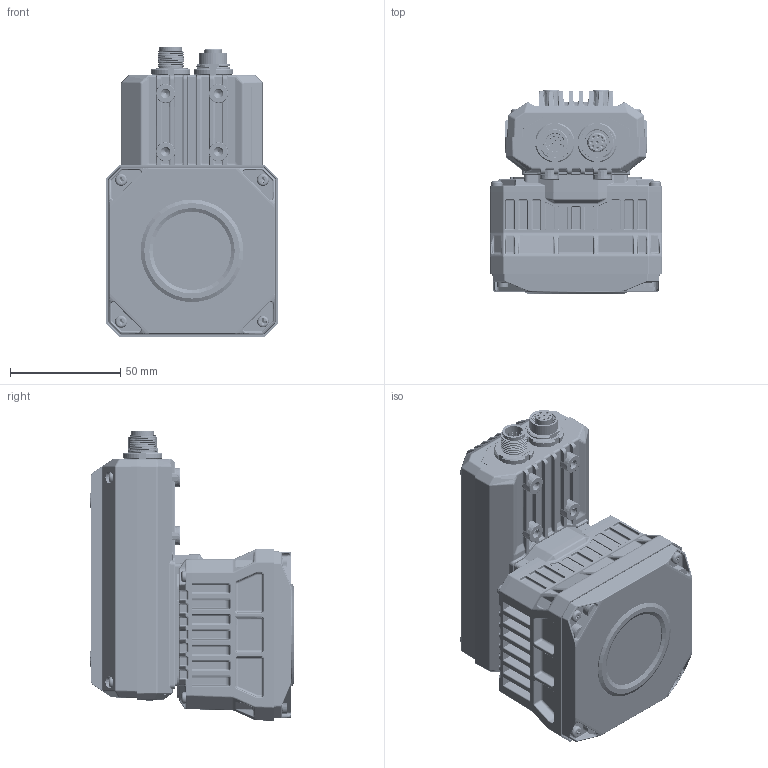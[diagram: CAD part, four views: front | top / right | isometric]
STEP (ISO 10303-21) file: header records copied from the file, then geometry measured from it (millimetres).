
FILE_DESCRIPTION((''),'2;1');
FILE_NAME('00-349-ALL-ASM_ASM_ASM','2021-02-23T12:04:05',('liudeting'),(''),'CREO PARAMETRIC BY PTC INC, 2017260','CREO PARAMETRIC BY PTC INC, 2017260','');
FILE_SCHEMA(('CONFIG_CONTROL_DESIGN'));
Products named in the file (59): DE-13-000293_13; DE-13-000364_ASM_24_ASM; DE-13-000122_6; DE-13-000123_ASM_17_ASM; DE-13-000221_ASM_5_ASM; BACK-PCB_5; L102-M12-Z08A11F_5; L102-M12-Z12A23C_8_1; L102-M12-Z12A23C_8_2; L102-M12-Z12A23C_8_3; L102-M12-Z12A23C_8_4; L102-M12-Z12A23C_8_5; L102-M12-Z12A23C_8_6; L102-M12-Z12A23C_8_7; L102-M12-Z12A23C_8_8; L102-M12-Z12A23C_8_9; L102-M12-Z12A23C_8_10; L102-M12-Z12A23C_8_11; L102-M12-Z12A23C_8_12; L102-M12-Z12A23C_8_13; L102-M12-Z12A23C_8_14; L102-M12-Z12A23C_8_15; L102-M12-Z12A23C_8_16; L102-M12-Z12A23C_8_17; L102-M12-Z12A23C_8_18; L102-M12-Z12A23C_8_19; L102-M12-Z12A23C_8_20; L102-M12-Z12A23C_8_21; L102-M12-Z12A23C_8_22; L102-M12-Z12A23C_8_23; L102-M12-Z12A23C_8_24; L102-M12-Z12A23C_8_25; L102-M12-Z12A23C_8_26; L102-M12-Z12A23C_8_ASM; RUANBAN_12; YUANLUOMU_3; SC-T1M2X4NL_2; 349-PCB_FPC_AF0_ASM_116_ASM; DE-13-000130_351; DE-13-000163_ASM_72_ASM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
Assembly tree (86 placements, depth 6):
  00-349-ALL-ASM_ASM_ASM
    00-349-ALL-ASM_ASM_1207_ASM
      DE-13-000364_ASM_24_ASM
        DE-13-000293_13
      DE-13-000221_ASM_5_ASM
        DE-13-000122_6
        DE-13-000123_ASM_17_ASM
          DE-13-000122_6
      349-PCB_FPC_AF0_ASM_116_ASM
        BACK-PCB_5
        L102-M12-Z08A11F_5
        L102-M12-Z12A23C_8_ASM
          L102-M12-Z12A23C_8_1
          L102-M12-Z12A23C_8_2
          L102-M12-Z12A23C_8_3
          L102-M12-Z12A23C_8_4
          L102-M12-Z12A23C_8_5
          L102-M12-Z12A23C_8_6
          L102-M12-Z12A23C_8_7
          L102-M12-Z12A23C_8_8
          L102-M12-Z12A23C_8_9
          L102-M12-Z12A23C_8_10
          L102-M12-Z12A23C_8_11
          L102-M12-Z12A23C_8_12
          L102-M12-Z12A23C_8_13
          L102-M12-Z12A23C_8_14
          L102-M12-Z12A23C_8_15
          L102-M12-Z12A23C_8_16
          L102-M12-Z12A23C_8_17
          L102-M12-Z12A23C_8_18
          L102-M12-Z12A23C_8_19
          L102-M12-Z12A23C_8_20
          L102-M12-Z12A23C_8_21
          L102-M12-Z12A23C_8_22
          L102-M12-Z12A23C_8_23
          L102-M12-Z12A23C_8_24
          L102-M12-Z12A23C_8_25
          L102-M12-Z12A23C_8_26
        RUANBAN_12
        YUANLUOMU_3  x2
        SC-T1M2X4NL_2  x2
      C-LED-ASM_ASM_423_ASM
        DE-13-000163_ASM_72_ASM
          DE-13-000130_351
        DE-13-000165_ASM_46_ASM
          DE-13-000164_486
        DE-20-000156_ASM_20_ASM
          DE-12-000277_16
          DE-20-000155_ASM_13_ASM
            DE-18-000009_1
            DE-14-001895_2
        SC-PM3X7_5T10-L4-SUS304-BZN_1  x3
        DE-17-000202_12
        SC-P0M2_5X6-BNI-GB818_1  x4
        SC-T1M2X4NL_2  x4
        SC-PM3X7_5L4-SUS_4  x8
      DAOGUANGZHUZUJIAN-01_ASM_19_ASM
        SC-T1M2X4NL_2  x2
        M1906176_1
      SC-P0M2_5X6-BNI-GB818_1  x4
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Bounding box: 78 x 92.7 x 131.55 mm (x, y, z)
Volume: 446124 mm3; surface area: 177318.1 mm2
Topology: 74 solids, 177 shells, 9790 faces, 24597 edges, 14991 vertices
Faces by surface type: cylinder 3654, plane 2923, bspline 1565, torus 750, cone 613, sphere 230, extrusion 55
Entity records: 309521 total; most frequent: CARTESIAN_POINT 145636, ORIENTED_EDGE 35446, DIRECTION 32086, EDGE_CURVE 17848, AXIS2_PLACEMENT_3D 12326, VERTEX_POINT 11005, EDGE_LOOP 7593, VECTOR 7434
